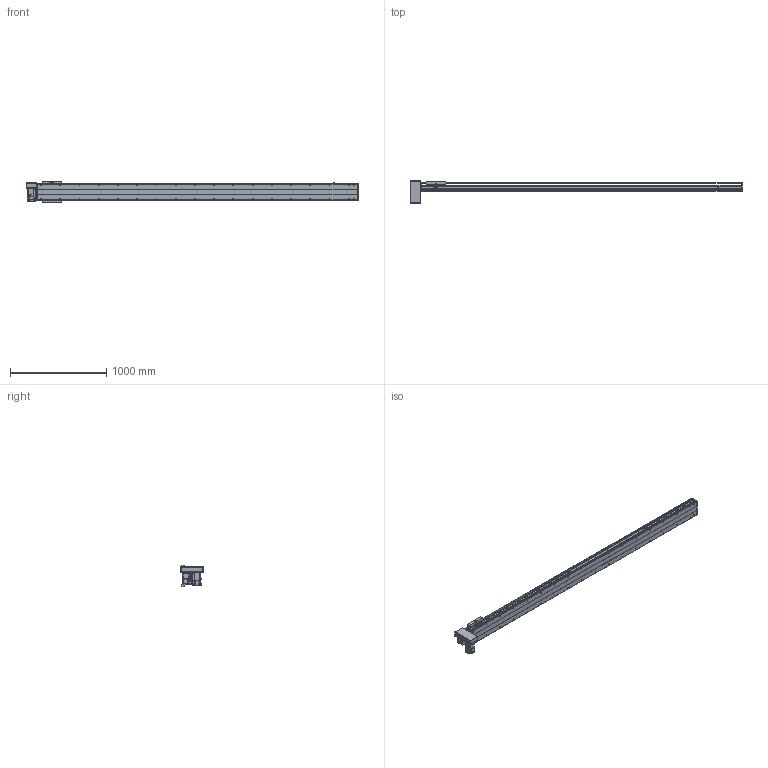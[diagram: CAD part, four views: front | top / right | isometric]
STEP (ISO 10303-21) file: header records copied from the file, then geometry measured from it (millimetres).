
FILE_DESCRIPTION(/* description */ ('STEP AP214'),/* implementation_level */ '2;1');
FILE_NAME(/* name */ 'PBS200-P40-S2950-RD-T75-C1-N(0)',/* time_stamp */ '2022-06-11T09:32:30+02:00',/* author */ ('License CC BY-ND 4.0'),/* organization */ ('CADENAS'),/* preprocessor_version */ 'ST-DEVELOPER v18.102',/* originating_system */ 'PARTsolutions',/* authorisation */ ' ');
FILE_SCHEMA (('AUTOMOTIVE_DESIGN {1 0 10303 214 3 1 1}'));
Length unit declared in the file: millimetre
Products named in the file (7): PBS200-P40-S2950-RD-T75-C1-N(0); PBS200_sensor; PBS200_plant; PBS200_sliser; T75-p1; PBS200T-RD_motors; PBS200-S2950()_body
Assembly tree (8 placements, depth 2):
  PBS200-P40-S2950-RD-T75-C1-N(0)
    PBS200_sensor  x3
    PBS200_plant
    PBS200_sliser
    T75-p1
    PBS200T-RD_motors
    PBS200-S2950()_body
Bounding box: 3450 x 230 x 221 mm (x, y, z)
Volume: 23413517.1 mm3; surface area: 3739618.7 mm2
Topology: 8 solids, 8 shells, 980 faces, 2474 edges, 1608 vertices
Faces by surface type: plane 594, cylinder 318, cone 68
Full cylindrical faces by diameter (mm): 2.459 x6, 3.242 x4, 4.5 x6, 4.917 x4, 5 x6, 6 x7, 6.6 x8, 6.647 x40, 8 x6, 10 x4, 12 x8, 38 x2, 40 x1, 70 x1
Entity records: 25781 total; most frequent: DIRECTION 4567, CARTESIAN_POINT 4372, ORIENTED_EDGE 4102, EDGE_CURVE 2051, AXIS2_PLACEMENT_3D 1627, VERTEX_POINT 1432, LINE 1313, VECTOR 1313
